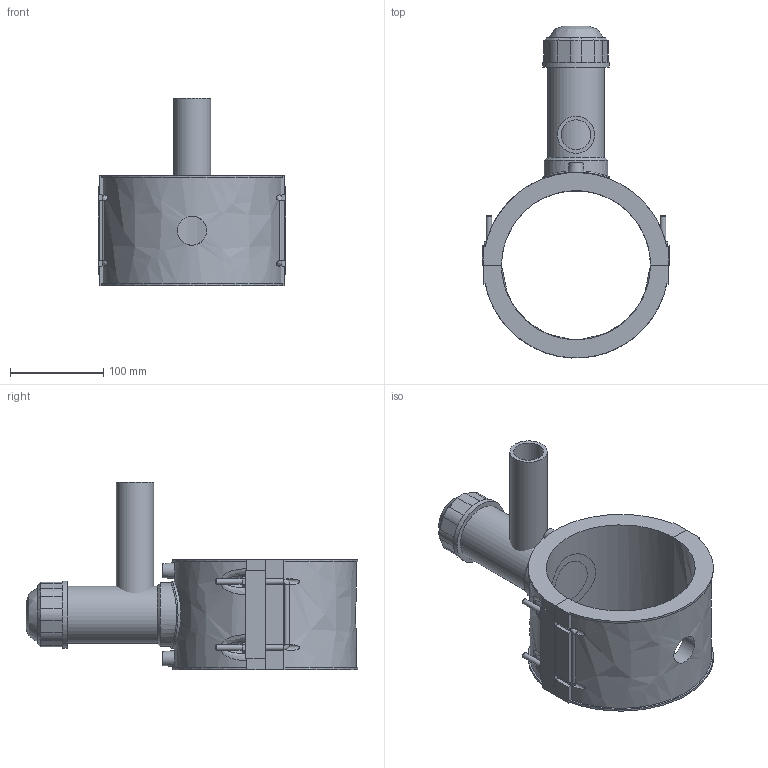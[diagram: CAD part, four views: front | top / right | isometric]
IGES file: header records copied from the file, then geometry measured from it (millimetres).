
Global section: file name: 4963P4160040; native system: Autodesk Inventor 2019; preprocessor: unknown; author: KIM; date: 20220317.113013; units: millimetre
Bounding box: 201 x 356.45 x 201 mm (x, y, z)
Volume: 1555980.5 mm3; surface area: 273985.3 mm2
Topology: 3 solids, 3 shells, 194 faces, 499 edges, 329 vertices
Faces by surface type: bspline 194
